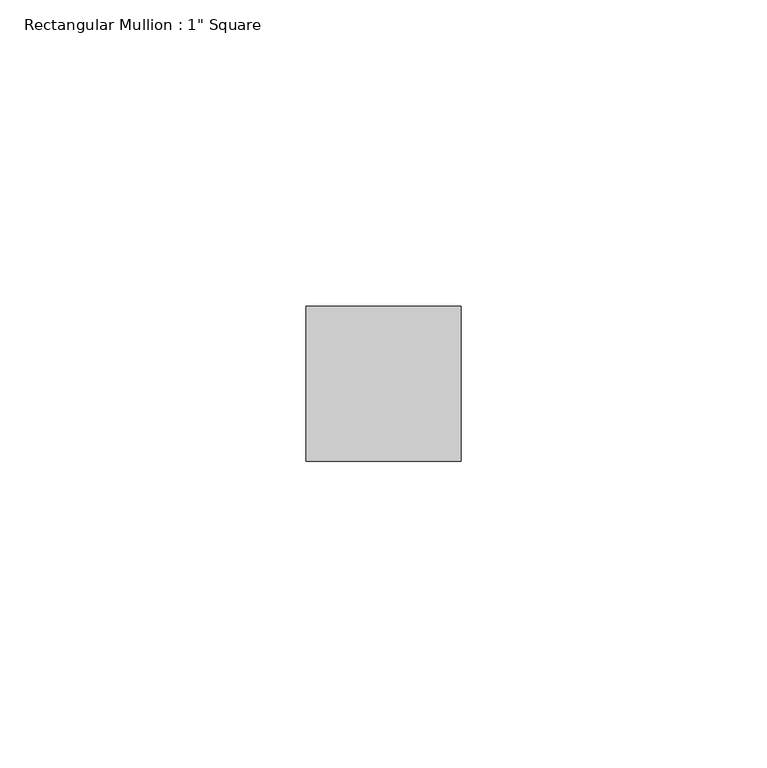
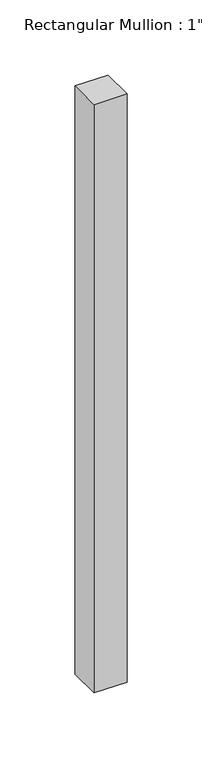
"""IFC4 building model written with IfcOpenShell, lengths in millimetres: member geometry."""

from ifc_helpers import new_model, si_unit, frame, origin, place, context, project, spatial, polyline, outline, extrude, source, transform, mapped, element, save


def member_dee8aa16(model_context):
    return source(origin(), model_context, "Body", "SweptSolid", [
        extrude(outline(polyline([(12.7, 12.7), (12.7, -12.7), (-12.7, -12.7), (-12.7, 12.7), (12.7, 12.7)])), frame((0.0, 0.0, -478.3550418), z_axis=(0.0, 0.0, 1.0), x_axis=(1.0, 0.0, 0.0)), (0.0, 0.0, 1.0), 478.3550418),
    ])


if __name__ == "__main__":
    model = new_model("IFC4")
    model_context = context("Model", 3, world=origin())
    ifc_project = project(units=[si_unit("LENGTHUNIT", "METRE", prefix="MILLI")], contexts=[model_context])
    site = spatial("IfcSite", under=ifc_project)
    building = spatial("IfcBuilding", under=site)
    placement = place(None, origin())
    member_shape = member_dee8aa16(model_context)
    element("IfcMember", 1, ObjectType="Rectangular Mullion : 1\" Square", at=placement, inside=building, context=model_context, shape_type="MappedRepresentation", body=[
        mapped(member_shape, transform((0.0, 0.0, 0.0), x_axis=(1.0, 0.0, 0.0), y_axis=(0.0, 1.0, 0.0), z_axis=(0.0, 0.0, 1.0))),
    ])
    save(model, "model.ifc")
